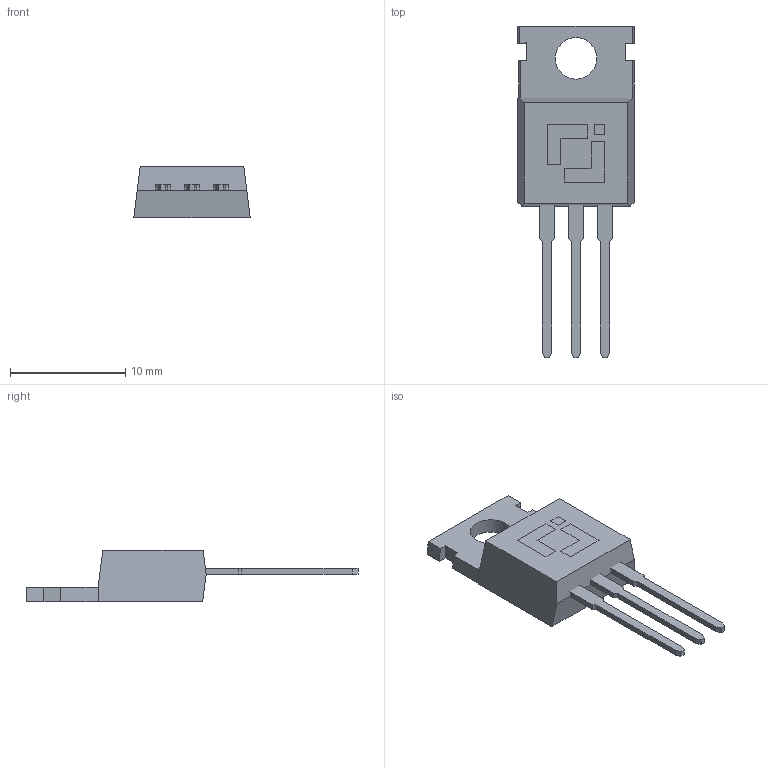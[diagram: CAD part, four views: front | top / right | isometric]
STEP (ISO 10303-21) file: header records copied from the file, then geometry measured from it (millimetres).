
FILE_DESCRIPTION(('HOOPS Exchange Step'),'2;1');
FILE_NAME('C:\Users\xuyu\AppData\Local\Packages\Shapr3D.Shapr3D_j403pzjkqtqbj\TempState\export\temp_export','2025-12-05T15:53:44+08:00',('xuyu'),('Shapr3D Limited'),'HOOPS Exchange 2025.7','Shapr3D','Authorized');
FILE_SCHEMA( ('AP242_MANAGED_MODEL_BASED_3D_ENGINEERING_MIM_LF {1 0 10303 442 1 1 4}') );
Length unit declared in the file: millimetre
Products named in the file (1): root
Bounding box: 10.08 x 28.75 x 4.5 mm (x, y, z)
Volume: 472.7 mm3; surface area: 741 mm2
Topology: 5 solids, 5 shells, 89 faces, 225 edges, 149 vertices
Faces by surface type: plane 82, cylinder 7
Full cylindrical faces by diameter (mm): 3.6 x1
Entity records: 2690 total; most frequent: CARTESIAN_POINT 465, ORIENTED_EDGE 450, DIRECTION 422, EDGE_CURVE 225, VECTOR 210, LINE 210, VERTEX_POINT 149, AXIS2_PLACEMENT_3D 106
